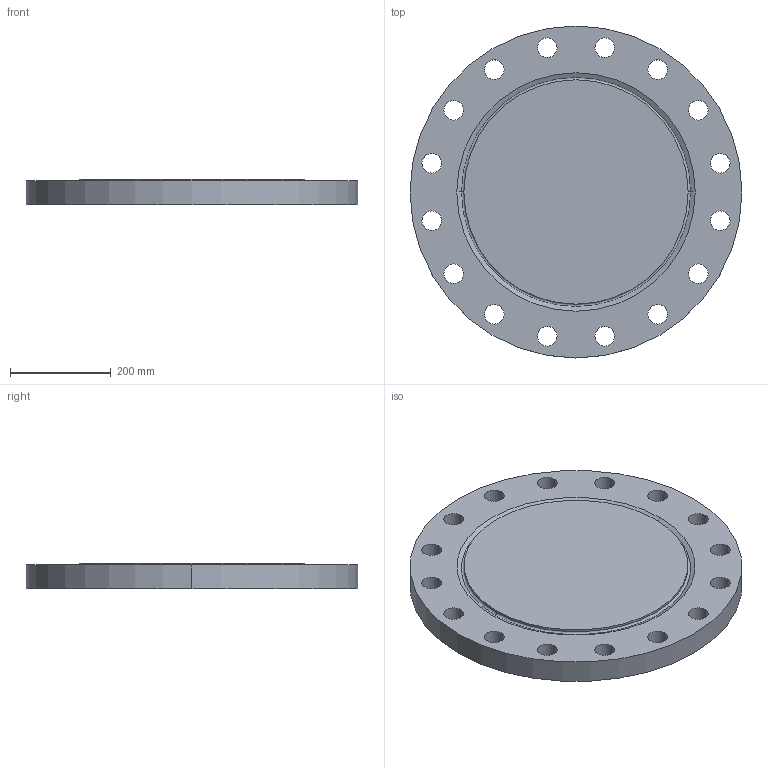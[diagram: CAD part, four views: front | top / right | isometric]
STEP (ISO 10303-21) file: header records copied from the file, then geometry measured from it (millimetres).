
FILE_DESCRIPTION (( 'STEP AP214' ), '1' );
FILE_NAME ('PN40 DN400 Type 05 - Type H Face.STEP', '2019-01-05T23:20:29', ( '' ), ( '' ), 'SwSTEP 2.0', 'SolidWorks 2019', '' );
FILE_SCHEMA (( 'AUTOMOTIVE_DESIGN' ));
Length unit declared in the file: millimetre
Products named in the file (1): PN40 DN400 Type 05 - Type H Face
Bounding box: 660 x 660 x 50 mm (x, y, z)
Volume: 15588010.9 mm3; surface area: 846441.9 mm2
Topology: 1 solids, 1 shells, 43 faces, 116 edges, 76 vertices
Faces by surface type: cylinder 36, plane 3, torus 2, cone 2
Entity records: 1494 total; most frequent: DIRECTION 282, CARTESIAN_POINT 236, ORIENTED_EDGE 232, AXIS2_PLACEMENT_3D 122, EDGE_CURVE 116, CIRCLE 78, EDGE_LOOP 76, VERTEX_POINT 76
